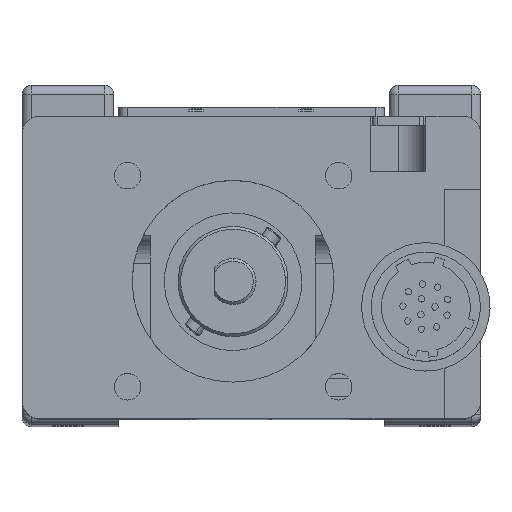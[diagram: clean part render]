
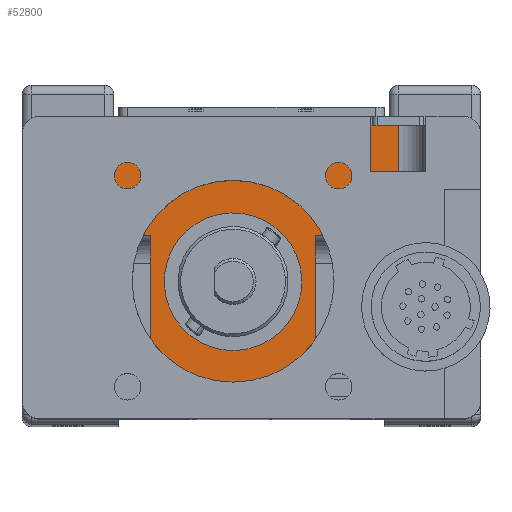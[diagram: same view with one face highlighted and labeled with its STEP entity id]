
A CAD part, top view. The second image highlights one B-rep face of the part: STEP entity #52800.
In plain terms, the highlighted planar face has unit normal (0, 0, 1).
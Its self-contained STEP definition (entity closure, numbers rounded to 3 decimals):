
#464 = CIRCLE ( 'NONE', #111931, 7.5 ) ;
#2365 = PLANE ( 'NONE',  #142675 ) ;
#7343 = EDGE_CURVE ( 'NONE', #170158, #16593, #123968, .T. ) ;
#10001 = CARTESIAN_POINT ( 'NONE',  ( -11., 20.5, 167. ) ) ;
#10567 = ORIENTED_EDGE ( 'NONE', *, *, #114779, .F. ) ;
#10683 = ORIENTED_EDGE ( 'NONE', *, *, #7343, .T. ) ;
#12679 = EDGE_CURVE ( 'NONE', #16593, #58502, #99882, .T. ) ;
#13329 = CARTESIAN_POINT ( 'NONE',  ( -11., 20.5, 167. ) ) ;
#16593 = VERTEX_POINT ( 'NONE', #42830 ) ;
#18951 = DIRECTION ( 'NONE',  ( -1., 0., 0. ) ) ;
#20253 = VERTEX_POINT ( 'NONE', #176697 ) ;
#20932 = ORIENTED_EDGE ( 'NONE', *, *, #12679, .T. ) ;
#28176 = DIRECTION ( 'NONE',  ( 0., 1., 0. ) ) ;
#28858 = EDGE_CURVE ( 'NONE', #56702, #158955, #126400, .T. ) ;
#29375 = CARTESIAN_POINT ( 'NONE',  ( 4.928, 18.373, 167. ) ) ;
#37738 = DIRECTION ( 'NONE',  ( 1., 0., 0. ) ) ;
#37968 = CARTESIAN_POINT ( 'NONE',  ( 16., 32.5, 167. ) ) ;
#39121 = VECTOR ( 'NONE', #154127, 1000. ) ;
#42830 = CARTESIAN_POINT ( 'NONE',  ( 16., 20.5, 167. ) ) ;
#46983 = EDGE_CURVE ( 'NONE', #171139, #158955, #184612, .T. ) ;
#48337 = VECTOR ( 'NONE', #139037, 1000. ) ;
#52084 = ORIENTED_EDGE ( 'NONE', *, *, #28858, .T. ) ;
#52800 = ADVANCED_FACE ( 'NONE', ( #105273, #91106 ), #2365, .F. ) ;
#54137 = DIRECTION ( 'NONE',  ( -1., 0., 0. ) ) ;
#54398 = VECTOR ( 'NONE', #37738, 1000. ) ;
#54671 = CARTESIAN_POINT ( 'NONE',  ( -2., 20.5, 167. ) ) ;
#56702 = VERTEX_POINT ( 'NONE', #61677 ) ;
#58502 = VERTEX_POINT ( 'NONE', #115847 ) ;
#59145 = VECTOR ( 'NONE', #111188, 1000. ) ;
#61667 = AXIS2_PLACEMENT_3D ( 'NONE', #127903, #185453, #171282 ) ;
#61677 = CARTESIAN_POINT ( 'NONE',  ( -16., 20.5, 167. ) ) ;
#62780 = DIRECTION ( 'NONE',  ( 0., 0., -1. ) ) ;
#62968 = CARTESIAN_POINT ( 'NONE',  ( -11., 9.175, 167. ) ) ;
#64851 = CARTESIAN_POINT ( 'NONE',  ( -8.928, 12.627, 167. ) ) ;
#72114 = CIRCLE ( 'NONE', #186654, 7.5 ) ;
#72565 = VERTEX_POINT ( 'NONE', #29375 ) ;
#73685 = EDGE_CURVE ( 'NONE', #72565, #103030, #464, .T. ) ;
#80062 = EDGE_LOOP ( 'NONE', ( #146695, #133143 ) ) ;
#81032 = ORIENTED_EDGE ( 'NONE', *, *, #131319, .F. ) ;
#81721 = DIRECTION ( 'NONE',  ( 0., 1., 0. ) ) ;
#91041 = EDGE_CURVE ( 'NONE', #103030, #72565, #72114, .T. ) ;
#91106 = FACE_OUTER_BOUND ( 'NONE', #93903, .T. ) ;
#91824 = CIRCLE ( 'NONE', #61667, 11. ) ;
#91982 = ORIENTED_EDGE ( 'NONE', *, *, #46983, .F. ) ;
#93903 = EDGE_LOOP ( 'NONE', ( #111004, #142102, #52084, #91982, #10567, #81032, #10683, #20932 ) ) ;
#99882 = LINE ( 'NONE', #182986, #183385 ) ;
#103030 = VERTEX_POINT ( 'NONE', #64851 ) ;
#105273 = FACE_BOUND ( 'NONE', #80062, .T. ) ;
#109707 = LINE ( 'NONE', #37968, #177144 ) ;
#110702 = CARTESIAN_POINT ( 'NONE',  ( 7., 20.5, 167. ) ) ;
#111004 = ORIENTED_EDGE ( 'NONE', *, *, #144361, .F. ) ;
#111188 = DIRECTION ( 'NONE',  ( 0., 1., 0. ) ) ;
#111931 = AXIS2_PLACEMENT_3D ( 'NONE', #163353, #133167, #18951 ) ;
#114779 = EDGE_CURVE ( 'NONE', #116277, #171139, #91824, .T. ) ;
#115847 = CARTESIAN_POINT ( 'NONE',  ( 16., 32.5, 167. ) ) ;
#116277 = VERTEX_POINT ( 'NONE', #118775 ) ;
#117765 = VECTOR ( 'NONE', #81721, 1000. ) ;
#118775 = CARTESIAN_POINT ( 'NONE',  ( 7., 9.175, 167. ) ) ;
#120362 = DIRECTION ( 'NONE',  ( -1., 0., 0. ) ) ;
#123968 = LINE ( 'NONE', #181545, #48337 ) ;
#126400 = LINE ( 'NONE', #54671, #54398 ) ;
#127241 = CARTESIAN_POINT ( 'NONE',  ( -16., 13.5, 167. ) ) ;
#127903 = CARTESIAN_POINT ( 'NONE',  ( -2., 15.5, 167. ) ) ;
#131319 = EDGE_CURVE ( 'NONE', #170158, #116277, #139043, .T. ) ;
#133143 = ORIENTED_EDGE ( 'NONE', *, *, #73685, .T. ) ;
#133167 = DIRECTION ( 'NONE',  ( 0., 0., -1. ) ) ;
#138951 = DIRECTION ( 'NONE',  ( 1., 0., 0. ) ) ;
#139037 = DIRECTION ( 'NONE',  ( 1., 0., 0. ) ) ;
#139043 = LINE ( 'NONE', #110702, #39121 ) ;
#140970 = CARTESIAN_POINT ( 'NONE',  ( -2., 15.5, 167. ) ) ;
#142102 = ORIENTED_EDGE ( 'NONE', *, *, #178985, .F. ) ;
#142675 = AXIS2_PLACEMENT_3D ( 'NONE', #148686, #62780, #120362 ) ;
#144361 = EDGE_CURVE ( 'NONE', #20253, #58502, #109707, .T. ) ;
#146695 = ORIENTED_EDGE ( 'NONE', *, *, #91041, .T. ) ;
#148686 = CARTESIAN_POINT ( 'NONE',  ( 16., 13.5, 167. ) ) ;
#154127 = DIRECTION ( 'NONE',  ( 0., -1., 0. ) ) ;
#158342 = CARTESIAN_POINT ( 'NONE',  ( 7., 20.5, 167. ) ) ;
#158955 = VERTEX_POINT ( 'NONE', #13329 ) ;
#163353 = CARTESIAN_POINT ( 'NONE',  ( -2., 15.5, 167. ) ) ;
#166916 = LINE ( 'NONE', #127241, #59145 ) ;
#170158 = VERTEX_POINT ( 'NONE', #158342 ) ;
#171139 = VERTEX_POINT ( 'NONE', #62968 ) ;
#171282 = DIRECTION ( 'NONE',  ( 1., 0., 0. ) ) ;
#176697 = CARTESIAN_POINT ( 'NONE',  ( -16., 32.5, 167. ) ) ;
#177144 = VECTOR ( 'NONE', #138951, 1000. ) ;
#178985 = EDGE_CURVE ( 'NONE', #56702, #20253, #166916, .T. ) ;
#181545 = CARTESIAN_POINT ( 'NONE',  ( -2., 20.5, 167. ) ) ;
#182986 = CARTESIAN_POINT ( 'NONE',  ( 16., 13.5, 167. ) ) ;
#183385 = VECTOR ( 'NONE', #28176, 1000. ) ;
#183453 = DIRECTION ( 'NONE',  ( 0., 0., -1. ) ) ;
#184612 = LINE ( 'NONE', #10001, #117765 ) ;
#185453 = DIRECTION ( 'NONE',  ( 0., 0., -1. ) ) ;
#186654 = AXIS2_PLACEMENT_3D ( 'NONE', #140970, #183453, #54137 ) ;
